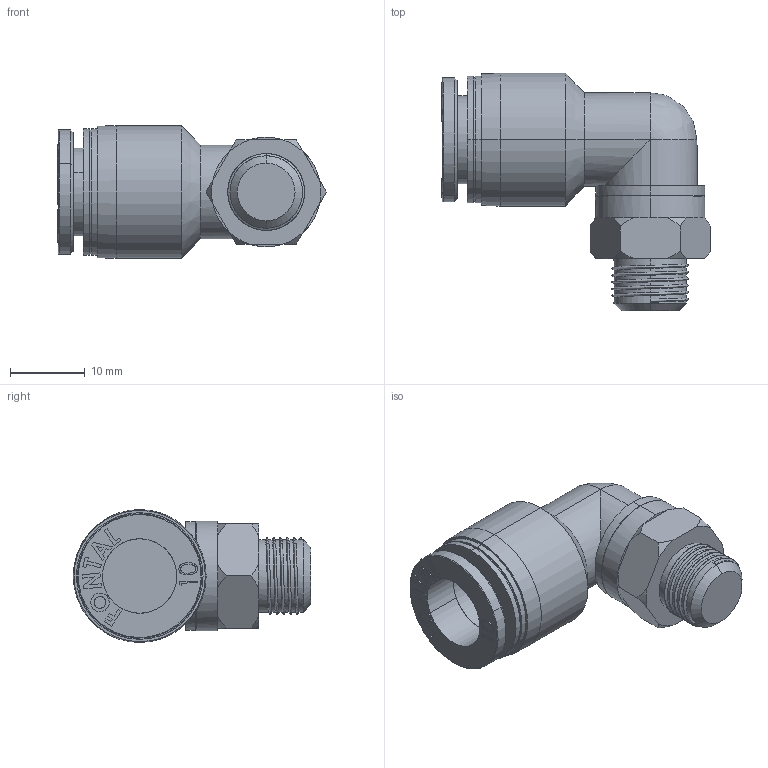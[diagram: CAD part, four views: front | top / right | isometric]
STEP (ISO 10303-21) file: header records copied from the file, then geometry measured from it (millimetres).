
FILE_DESCRIPTION (( 'STEP AP203' ), '1' );
FILE_NAME ('FPL10-01.STEP', '2016-01-14T21:03:22', ( '' ), ( '' ), 'SwSTEP 2.0', 'SolidWorks 2014', '' );
FILE_SCHEMA (( 'CONFIG_CONTROL_DESIGN' ));
Length unit declared in the file: millimetre
Products named in the file (4): FPL10-01-B; FPL10-02-A; FPC10-02-A; FPL10-01
Assembly tree (3 placements, depth 2):
  FPL10-01
    FPL10-02-A
    FPC10-02-A
    FPL10-01-B
Bounding box: 36.09 x 31.9 x 17.85 mm (x, y, z)
Volume: 6350.6 mm3; surface area: 4290.3 mm2
Topology: 3 solids, 3 shells, 175 faces, 421 edges, 268 vertices
Faces by surface type: plane 90, cylinder 39, cone 22, bspline 20, torus 4
Entity records: 8732 total; most frequent: CARTESIAN_POINT 4436, ORIENTED_EDGE 838, DIRECTION 740, EDGE_CURVE 419, VERTEX_POINT 268, AXIS2_PLACEMENT_3D 249, LINE 242, VECTOR 242
